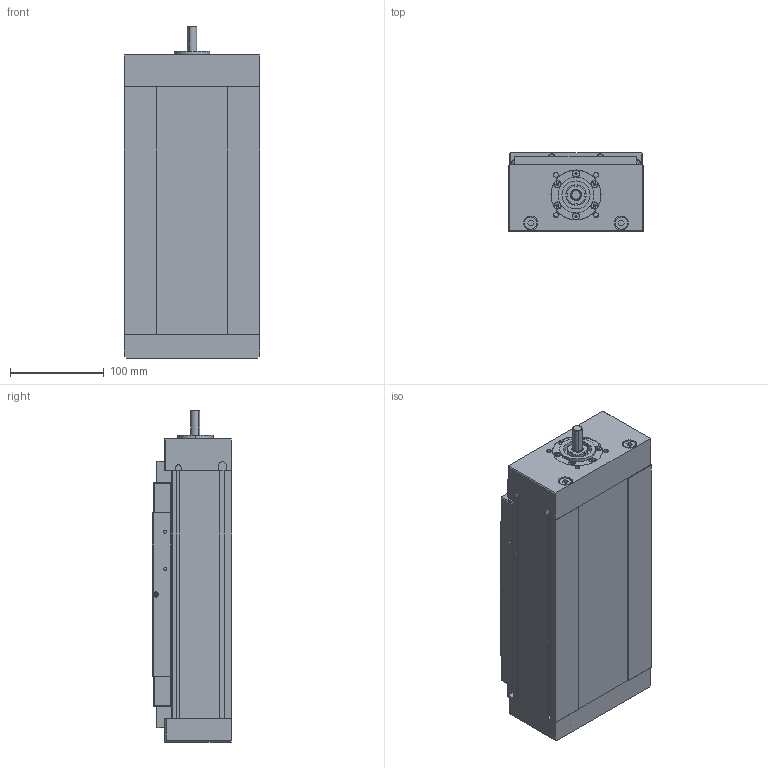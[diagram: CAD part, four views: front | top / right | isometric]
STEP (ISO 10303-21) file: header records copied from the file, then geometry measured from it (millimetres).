
FILE_DESCRIPTION (( 'STEP AP203' ), '1' );
FILE_NAME ('SFT2-S145-1-240-265-0.STEP', '2015-12-19T17:55:41', ( '' ), ( '' ), 'SwSTEP 2.0', 'SolidWorks 2014', '' );
FILE_SCHEMA (( 'CONFIG_CONTROL_DESIGN' ));
Length unit declared in the file: millimetre
Products named in the file (5): SFT2-S145 Festlager; SFT2-S145 Loslager; SFT2-S145-1-240-265-0; SFT2-S145 Grundkoerper; SFT2-S145 Tischteil L=240
Assembly tree (4 placements, depth 2):
  SFT2-S145-1-240-265-0
    SFT2-S145 Grundkoerper
    SFT2-S145 Tischteil L=240
    SFT2-S145 Festlager
    SFT2-S145 Loslager
Bounding box: 145 x 85 x 355 mm (x, y, z)
Volume: 1045765.9 mm3; surface area: 593365.6 mm2
Topology: 1 solids, 71 shells, 1302 faces, 3799 edges, 2560 vertices
Faces by surface type: plane 758, cylinder 416, cone 88, bspline 28, torus 8, sphere 4
Entity records: 44435 total; most frequent: CARTESIAN_POINT 9269, DIRECTION 7339, ORIENTED_EDGE 6808, EDGE_CURVE 3789, VERTEX_POINT 2554, AXIS2_PLACEMENT_3D 2500, VECTOR 2339, LINE 2339
